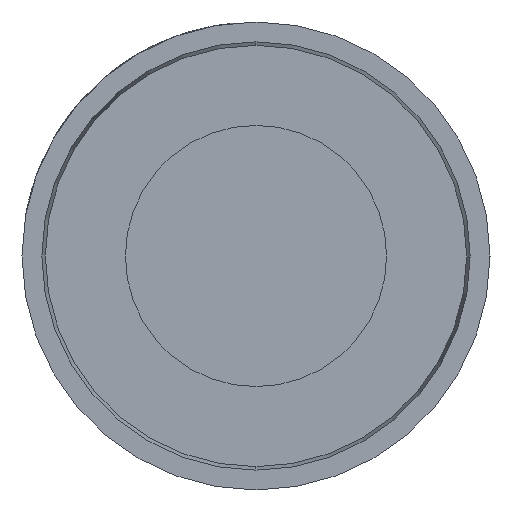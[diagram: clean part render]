
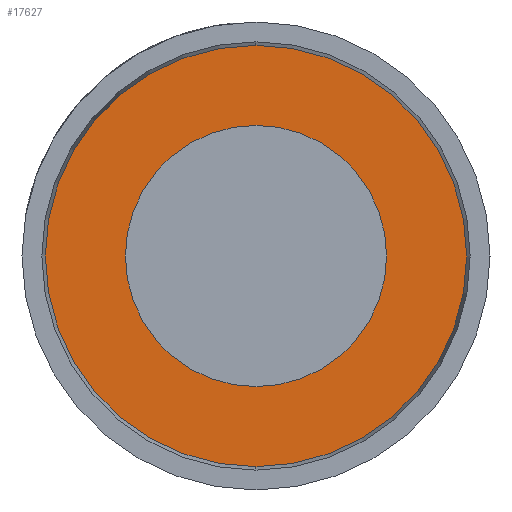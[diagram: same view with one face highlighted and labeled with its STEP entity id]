
A CAD part, left-side view. The second image highlights one B-rep face of the part: STEP entity #17627.
In plain terms, the highlighted planar face has unit normal (-1, 0, 0).
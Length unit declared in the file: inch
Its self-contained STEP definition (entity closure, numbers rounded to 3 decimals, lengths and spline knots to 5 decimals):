
#709 = ORIENTED_EDGE ( 'NONE', *, *, #7015, .F. ) ;
#886 = DIRECTION ( 'NONE',  ( 0., 0., -1. ) ) ;
#896 = DIRECTION ( 'NONE',  ( 1., 0., 0. ) ) ;
#910 = DIRECTION ( 'NONE',  ( 0., 0., -1. ) ) ;
#1689 = VERTEX_POINT ( 'NONE', #10645 ) ;
#2088 = FACE_BOUND ( 'NONE', #10823, .T. ) ;
#2101 = VERTEX_POINT ( 'NONE', #11923 ) ;
#2779 = VERTEX_POINT ( 'NONE', #11474 ) ;
#3024 = ORIENTED_EDGE ( 'NONE', *, *, #18357, .F. ) ;
#3407 = DIRECTION ( 'NONE',  ( -1., 0., 0. ) ) ;
#3584 = CARTESIAN_POINT ( 'NONE',  ( 0., 0., -0.1125 ) ) ;
#3823 = EDGE_LOOP ( 'NONE', ( #17135, #5284 ) ) ;
#4030 = DIRECTION ( 'NONE',  ( 0., 0., 1. ) ) ;
#5284 = ORIENTED_EDGE ( 'NONE', *, *, #10962, .F. ) ;
#5488 = CARTESIAN_POINT ( 'NONE',  ( 0., 0., 0. ) ) ;
#5821 = AXIS2_PLACEMENT_3D ( 'NONE', #7991, #6834, #910 ) ;
#6400 = DIRECTION ( 'NONE',  ( 0., 0., 1. ) ) ;
#6723 = DIRECTION ( 'NONE',  ( 1., 0., 0. ) ) ;
#6834 = DIRECTION ( 'NONE',  ( 1., 0., 0. ) ) ;
#7015 = EDGE_CURVE ( 'NONE', #2101, #2779, #12732, .T. ) ;
#7991 = CARTESIAN_POINT ( 'NONE',  ( 0., 0., 0. ) ) ;
#8617 = AXIS2_PLACEMENT_3D ( 'NONE', #15401, #6723, #886 ) ;
#8625 = CIRCLE ( 'NONE', #17693, 0.06975 ) ;
#9724 = FACE_OUTER_BOUND ( 'NONE', #3823, .T. ) ;
#10645 = CARTESIAN_POINT ( 'NONE',  ( 0., 0., 0.1125 ) ) ;
#10823 = EDGE_LOOP ( 'NONE', ( #3024, #709 ) ) ;
#10962 = EDGE_CURVE ( 'NONE', #1689, #14880, #14863, .T. ) ;
#10982 = DIRECTION ( 'NONE',  ( 0., 0., -1. ) ) ;
#11474 = CARTESIAN_POINT ( 'NONE',  ( 0., 0., 0.06975 ) ) ;
#11923 = CARTESIAN_POINT ( 'NONE',  ( 0., 0., -0.06975 ) ) ;
#12732 = CIRCLE ( 'NONE', #14312, 0.06975 ) ;
#13915 = CIRCLE ( 'NONE', #8617, 0.1125 ) ;
#14033 = CARTESIAN_POINT ( 'NONE',  ( 0., 0., 0. ) ) ;
#14052 = DIRECTION ( 'NONE',  ( -1., 0., 0. ) ) ;
#14242 = PLANE ( 'NONE',  #5821 ) ;
#14312 = AXIS2_PLACEMENT_3D ( 'NONE', #16938, #3407, #6400 ) ;
#14863 = CIRCLE ( 'NONE', #18307, 0.1125 ) ;
#14880 = VERTEX_POINT ( 'NONE', #3584 ) ;
#15401 = CARTESIAN_POINT ( 'NONE',  ( 0., 0., 0. ) ) ;
#16938 = CARTESIAN_POINT ( 'NONE',  ( 0., 0., 0. ) ) ;
#17135 = ORIENTED_EDGE ( 'NONE', *, *, #17873, .F. ) ;
#17627 = ADVANCED_FACE ( 'NONE', ( #2088, #9724 ), #14242, .F. ) ;
#17693 = AXIS2_PLACEMENT_3D ( 'NONE', #5488, #14052, #4030 ) ;
#17873 = EDGE_CURVE ( 'NONE', #14880, #1689, #13915, .T. ) ;
#18307 = AXIS2_PLACEMENT_3D ( 'NONE', #14033, #896, #10982 ) ;
#18357 = EDGE_CURVE ( 'NONE', #2779, #2101, #8625, .T. ) ;
